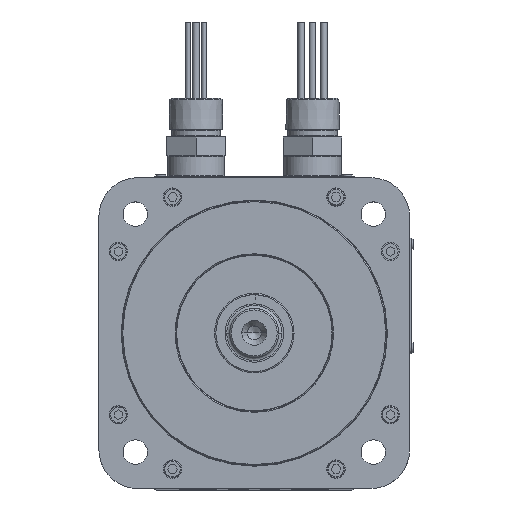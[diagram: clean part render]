
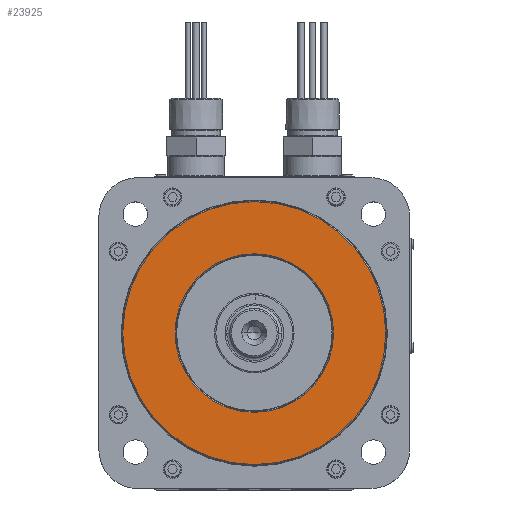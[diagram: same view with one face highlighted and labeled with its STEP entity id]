
A CAD part, top view. The second image highlights one B-rep face of the part: STEP entity #23925.
In plain terms, the highlighted planar face has unit normal (0, 0, 1).
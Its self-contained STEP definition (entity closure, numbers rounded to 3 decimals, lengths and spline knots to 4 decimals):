
#4035 = EDGE_LOOP ( 'NONE', ( #65312, #65311 ) ) ;
#4110 = EDGE_LOOP ( 'NONE', ( #65313, #65315 ) ) ;
#14721 = CARTESIAN_POINT ( 'NONE',  ( -2.5391, 0., 0. ) ) ;
#19611 = FACE_BOUND ( 'NONE', #4110, .T. ) ;
#20006 = FACE_OUTER_BOUND ( 'NONE', #4035, .T. ) ;
#21604 = CARTESIAN_POINT ( 'NONE',  ( 0., 0., 0. ) ) ;
#21613 = DIRECTION ( 'NONE',  ( 0., 0., 1. ) ) ;
#21614 = DIRECTION ( 'NONE',  ( 1., 0., 0. ) ) ;
#21672 = CARTESIAN_POINT ( 'NONE',  ( 0., 0., 0. ) ) ;
#21674 = DIRECTION ( 'NONE',  ( 0., 0., 1. ) ) ;
#21675 = DIRECTION ( 'NONE',  ( 1., 0., 0. ) ) ;
#21702 = CARTESIAN_POINT ( 'NONE',  ( 0., 0., 0. ) ) ;
#21703 = DIRECTION ( 'NONE',  ( 0., 0., 1. ) ) ;
#21704 = DIRECTION ( 'NONE',  ( 1., 0., 0. ) ) ;
#23925 = ADVANCED_FACE ( 'NONE', ( #20006, #19611 ), #64953, .T. ) ;
#24641 = CIRCLE ( 'NONE', #39026, 2.5391 ) ;
#24666 = CIRCLE ( 'NONE', #39041, 1.5305 ) ;
#24682 = CIRCLE ( 'NONE', #39048, 1.5305 ) ;
#26027 = CARTESIAN_POINT ( 'NONE',  ( 0., 0., 0. ) ) ;
#26028 = DIRECTION ( 'NONE',  ( 0., 0., 1. ) ) ;
#26029 = DIRECTION ( 'NONE',  ( 1., 0., 0. ) ) ;
#35713 = VERTEX_POINT ( 'NONE', #14721 ) ;
#37820 = CIRCLE ( 'NONE', #38742, 2.5391 ) ;
#38742 = AXIS2_PLACEMENT_3D ( 'NONE', #26027, #26028, #26029 ) ;
#39026 = AXIS2_PLACEMENT_3D ( 'NONE', #21604, #21613, #21614 ) ;
#39041 = AXIS2_PLACEMENT_3D ( 'NONE', #21672, #21674, #21675 ) ;
#39048 = AXIS2_PLACEMENT_3D ( 'NONE', #21702, #21703, #21704 ) ;
#42939 = AXIS2_PLACEMENT_3D ( 'NONE', #64945, #64935, #64904 ) ;
#43792 = VERTEX_POINT ( 'NONE', #46567 ) ;
#43904 = VERTEX_POINT ( 'NONE', #46727 ) ;
#43906 = VERTEX_POINT ( 'NONE', #46729 ) ;
#46567 = CARTESIAN_POINT ( 'NONE',  ( -1.5305, 0., 0. ) ) ;
#46727 = CARTESIAN_POINT ( 'NONE',  ( 1.5305, 0., 0. ) ) ;
#46729 = CARTESIAN_POINT ( 'NONE',  ( 2.5391, 0., 0. ) ) ;
#64904 = DIRECTION ( 'NONE',  ( 1., 0., 0. ) ) ;
#64935 = DIRECTION ( 'NONE',  ( 0., 0., 1. ) ) ;
#64945 = CARTESIAN_POINT ( 'NONE',  ( 0., 1.5305, 0. ) ) ;
#64953 = PLANE ( 'NONE',  #42939 ) ;
#65311 = ORIENTED_EDGE ( 'NONE', *, *, #68106, .T. ) ;
#65312 = ORIENTED_EDGE ( 'NONE', *, *, #67275, .T. ) ;
#65313 = ORIENTED_EDGE ( 'NONE', *, *, #68165, .F. ) ;
#65315 = ORIENTED_EDGE ( 'NONE', *, *, #68200, .F. ) ;
#67275 = EDGE_CURVE ( 'NONE', #35713, #43906, #37820, .T. ) ;
#68106 = EDGE_CURVE ( 'NONE', #43906, #35713, #24641, .T. ) ;
#68165 = EDGE_CURVE ( 'NONE', #43904, #43792, #24666, .T. ) ;
#68200 = EDGE_CURVE ( 'NONE', #43792, #43904, #24682, .T. ) ;
